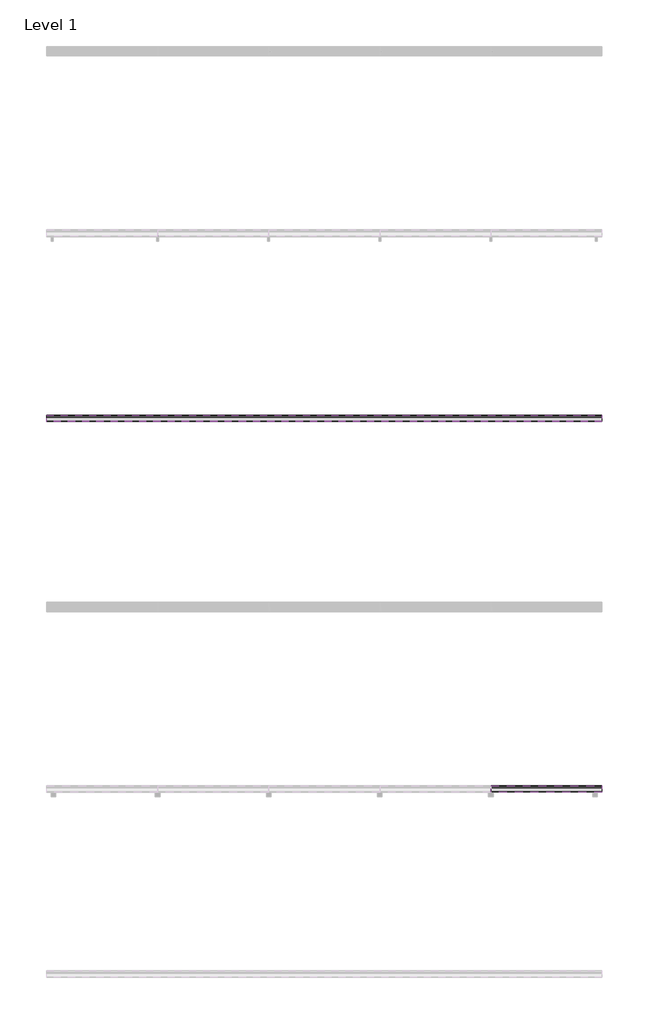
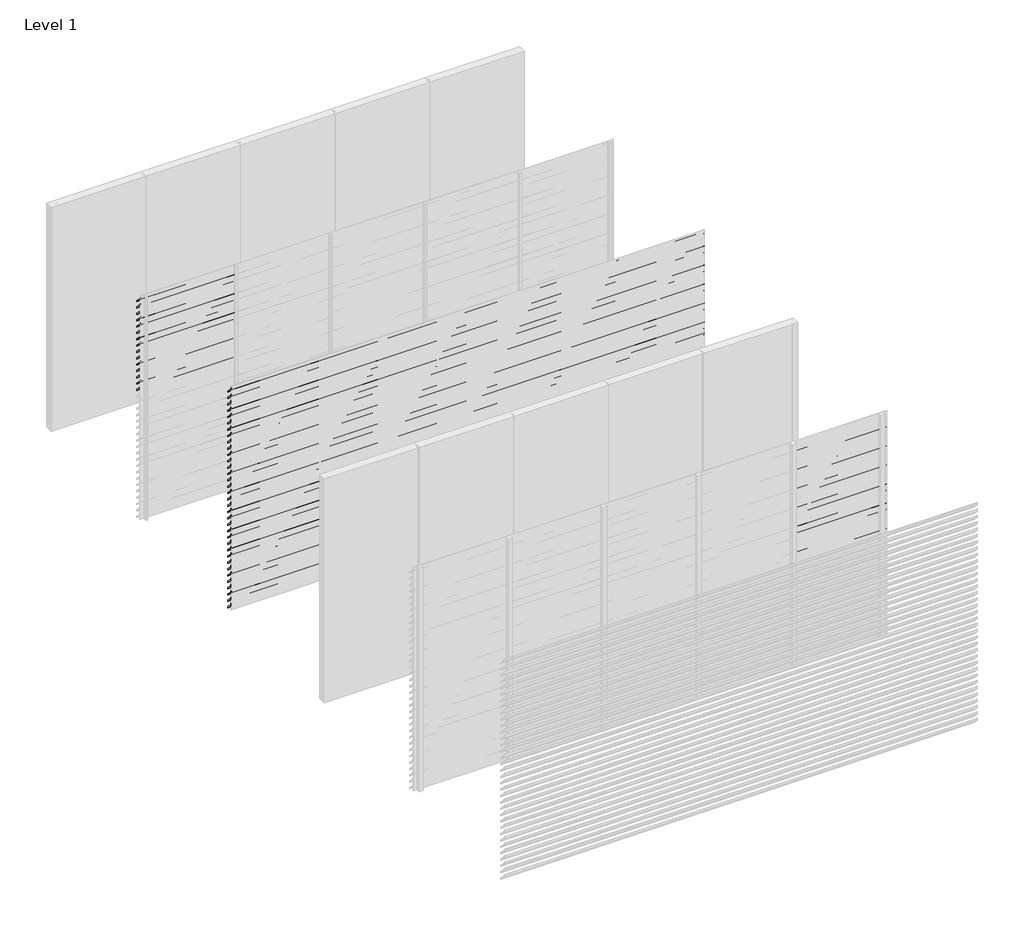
# One storey, part 6 of 10: 90 proxies.
"""IFC4 building model written with IfcOpenShell, lengths in millimetres."""

from ifc_helpers import new_model, si_unit, frame, origin, place, context, project, spatial, polyline, outline, extrude, element, save

model = new_model("IFC4")

# Units and contexts
model_context = context("Model", 3, world=origin())
ifc_project = project(units=[si_unit("LENGTHUNIT", "METRE", prefix="MILLI")], contexts=[model_context])

# Site, building, storey
site = spatial("IfcSite", under=ifc_project)
building = spatial("IfcBuilding", under=site)
storey = spatial("IfcBuildingStorey", under=building, Name="Level 1", Elevation=0.0)

# Proxies
placement = place(None, origin())
element("IfcBuildingElementProxy", 1, Name="Wall Sweeps", at=placement, inside=storey, context=model_context, shape_type="SweptSolid", body=[
    extrude(outline(polyline([(-5995.0, 2975.0), (-5995.0, 2962.0), (-5927.0, 2894.0), (-5927.0, 2876.0), (-5997.0, 2946.0), (-5997.0, 2975.0), (-5995.0, 2975.0)])), frame((0.0, 0.0, 0.0), z_axis=(1.0, 0.0, 0.0), x_axis=(0.0, 1.0, 0.0)), (0.0, 0.0, 1.0), 1200.0),
])
element("IfcBuildingElementProxy", 2, Name="Wall Sweeps", at=placement, inside=storey, context=model_context, shape_type="SweptSolid", body=[
    extrude(outline(polyline([(-5995.0, 2890.0), (-5995.0, 2877.0), (-5927.0, 2809.0), (-5927.0, 2791.0), (-5997.0, 2861.0), (-5997.0, 2890.0), (-5995.0, 2890.0)])), frame((0.0, 0.0, 0.0), z_axis=(1.0, 0.0, 0.0), x_axis=(0.0, 1.0, 0.0)), (0.0, 0.0, 1.0), 1200.0),
])
element("IfcBuildingElementProxy", 3, Name="Wall Sweeps", at=placement, inside=storey, context=model_context, shape_type="SweptSolid", body=[
    extrude(outline(polyline([(-5995.0, 2805.0), (-5995.0, 2792.0), (-5927.0, 2724.0), (-5927.0, 2706.0), (-5997.0, 2776.0), (-5997.0, 2805.0), (-5995.0, 2805.0)])), frame((0.0, 0.0, 0.0), z_axis=(1.0, 0.0, 0.0), x_axis=(0.0, 1.0, 0.0)), (0.0, 0.0, 1.0), 1200.0),
])
element("IfcBuildingElementProxy", 4, Name="Wall Sweeps", at=placement, inside=storey, context=model_context, shape_type="SweptSolid", body=[
    extrude(outline(polyline([(-5995.0, 2720.0), (-5995.0, 2707.0), (-5927.0, 2639.0), (-5927.0, 2621.0), (-5997.0, 2691.0), (-5997.0, 2720.0), (-5995.0, 2720.0)])), frame((0.0, 0.0, 0.0), z_axis=(1.0, 0.0, 0.0), x_axis=(0.0, 1.0, 0.0)), (0.0, 0.0, 1.0), 1200.0),
])
element("IfcBuildingElementProxy", 5, Name="Wall Sweeps", at=placement, inside=storey, context=model_context, shape_type="SweptSolid", body=[
    extrude(outline(polyline([(-5995.0, 2635.0), (-5995.0, 2622.0), (-5927.0, 2554.0), (-5927.0, 2536.0), (-5997.0, 2606.0), (-5997.0, 2635.0), (-5995.0, 2635.0)])), frame((0.0, 0.0, 0.0), z_axis=(1.0, 0.0, 0.0), x_axis=(0.0, 1.0, 0.0)), (0.0, 0.0, 1.0), 1200.0),
])
element("IfcBuildingElementProxy", 6, Name="Wall Sweeps", at=placement, inside=storey, context=model_context, shape_type="SweptSolid", body=[
    extrude(outline(polyline([(-5995.0, 2550.0), (-5995.0, 2537.0), (-5927.0, 2469.0), (-5927.0, 2451.0), (-5997.0, 2521.0), (-5997.0, 2550.0), (-5995.0, 2550.0)])), frame((0.0, 0.0, 0.0), z_axis=(1.0, 0.0, 0.0), x_axis=(0.0, 1.0, 0.0)), (0.0, 0.0, 1.0), 1200.0),
])
element("IfcBuildingElementProxy", 7, Name="Wall Sweeps", at=placement, inside=storey, context=model_context, shape_type="SweptSolid", body=[
    extrude(outline(polyline([(-5995.0, 2465.0), (-5995.0, 2452.0), (-5927.0, 2384.0), (-5927.0, 2366.0), (-5997.0, 2436.0), (-5997.0, 2465.0), (-5995.0, 2465.0)])), frame((0.0, 0.0, 0.0), z_axis=(1.0, 0.0, 0.0), x_axis=(0.0, 1.0, 0.0)), (0.0, 0.0, 1.0), 1200.0),
])
element("IfcBuildingElementProxy", 8, Name="Wall Sweeps", at=placement, inside=storey, context=model_context, shape_type="SweptSolid", body=[
    extrude(outline(polyline([(-5995.0, 2380.0), (-5995.0, 2367.0), (-5927.0, 2299.0), (-5927.0, 2281.0), (-5997.0, 2351.0), (-5997.0, 2380.0), (-5995.0, 2380.0)])), frame((0.0, 0.0, 0.0), z_axis=(1.0, 0.0, 0.0), x_axis=(0.0, 1.0, 0.0)), (0.0, 0.0, 1.0), 1200.0),
])
element("IfcBuildingElementProxy", 9, Name="Wall Sweeps", at=placement, inside=storey, context=model_context, shape_type="SweptSolid", body=[
    extrude(outline(polyline([(-5995.0, 2295.0), (-5995.0, 2282.0), (-5927.0, 2214.0), (-5927.0, 2196.0), (-5997.0, 2266.0), (-5997.0, 2295.0), (-5995.0, 2295.0)])), frame((0.0, 0.0, 0.0), z_axis=(1.0, 0.0, 0.0), x_axis=(0.0, 1.0, 0.0)), (0.0, 0.0, 1.0), 1200.0),
])
element("IfcBuildingElementProxy", 10, Name="Wall Sweeps", at=placement, inside=storey, context=model_context, shape_type="SweptSolid", body=[
    extrude(outline(polyline([(-5995.0, 2210.0), (-5995.0, 2197.0), (-5927.0, 2129.0), (-5927.0, 2111.0), (-5997.0, 2181.0), (-5997.0, 2210.0), (-5995.0, 2210.0)])), frame((0.0, 0.0, 0.0), z_axis=(1.0, 0.0, 0.0), x_axis=(0.0, 1.0, 0.0)), (0.0, 0.0, 1.0), 1200.0),
])
element("IfcBuildingElementProxy", 11, Name="Wall Sweeps", at=placement, inside=storey, context=model_context, shape_type="SweptSolid", body=[
    extrude(outline(polyline([(-5995.0, 2125.0), (-5995.0, 2112.0), (-5927.0, 2044.0), (-5927.0, 2026.0), (-5997.0, 2096.0), (-5997.0, 2125.0), (-5995.0, 2125.0)])), frame((0.0, 0.0, 0.0), z_axis=(1.0, 0.0, 0.0), x_axis=(0.0, 1.0, 0.0)), (0.0, 0.0, 1.0), 1200.0),
])
element("IfcBuildingElementProxy", 12, Name="Wall Sweeps", at=placement, inside=storey, context=model_context, shape_type="SweptSolid", body=[
    extrude(outline(polyline([(-5995.0, 2040.0), (-5995.0, 2027.0), (-5927.0, 1959.0), (-5927.0, 1941.0), (-5997.0, 2011.0), (-5997.0, 2040.0), (-5995.0, 2040.0)])), frame((0.0, 0.0, 0.0), z_axis=(1.0, 0.0, 0.0), x_axis=(0.0, 1.0, 0.0)), (0.0, 0.0, 1.0), 1200.0),
])
element("IfcBuildingElementProxy", 13, Name="Wall Sweeps", at=placement, inside=storey, context=model_context, shape_type="SweptSolid", body=[
    extrude(outline(polyline([(-5995.0, 1955.0), (-5995.0, 1942.0), (-5927.0, 1874.0), (-5927.0, 1856.0), (-5997.0, 1926.0), (-5997.0, 1955.0), (-5995.0, 1955.0)])), frame((0.0, 0.0, 0.0), z_axis=(1.0, 0.0, 0.0), x_axis=(0.0, 1.0, 0.0)), (0.0, 0.0, 1.0), 1200.0),
])
element("IfcBuildingElementProxy", 14, Name="Wall Sweeps", at=placement, inside=storey, context=model_context, shape_type="SweptSolid", body=[
    extrude(outline(polyline([(-5995.0, 1870.0), (-5995.0, 1857.0), (-5927.0, 1789.0), (-5927.0, 1771.0), (-5997.0, 1841.0), (-5997.0, 1870.0), (-5995.0, 1870.0)])), frame((0.0, 0.0, 0.0), z_axis=(1.0, 0.0, 0.0), x_axis=(0.0, 1.0, 0.0)), (0.0, 0.0, 1.0), 1200.0),
])
element("IfcBuildingElementProxy", 15, Name="Wall Sweeps", at=placement, inside=storey, context=model_context, shape_type="SweptSolid", body=[
    extrude(outline(polyline([(-5995.0, 1785.0), (-5995.0, 1772.0), (-5927.0, 1704.0), (-5927.0, 1686.0), (-5997.0, 1756.0), (-5997.0, 1785.0), (-5995.0, 1785.0)])), frame((0.0, 0.0, 0.0), z_axis=(1.0, 0.0, 0.0), x_axis=(0.0, 1.0, 0.0)), (0.0, 0.0, 1.0), 1200.0),
])
element("IfcBuildingElementProxy", 16, Name="Wall Sweeps", at=placement, inside=storey, context=model_context, shape_type="SweptSolid", body=[
    extrude(outline(polyline([(-7995.0, 2975.0), (-7995.0, 2962.0), (-7927.0, 2894.0), (-7927.0, 2876.0), (-7997.0, 2946.0), (-7997.0, 2975.0), (-7995.0, 2975.0)])), frame((0.0, 0.0, 0.0), z_axis=(1.0, 0.0, 0.0), x_axis=(0.0, 1.0, 0.0)), (0.0, 0.0, 1.0), 6000.0),
])
element("IfcBuildingElementProxy", 17, Name="Wall Sweeps", at=placement, inside=storey, context=model_context, shape_type="SweptSolid", body=[
    extrude(outline(polyline([(-7995.0, 2890.0), (-7995.0, 2877.0), (-7927.0, 2809.0), (-7927.0, 2791.0), (-7997.0, 2861.0), (-7997.0, 2890.0), (-7995.0, 2890.0)])), frame((0.0, 0.0, 0.0), z_axis=(1.0, 0.0, 0.0), x_axis=(0.0, 1.0, 0.0)), (0.0, 0.0, 1.0), 6000.0),
])
element("IfcBuildingElementProxy", 18, Name="Wall Sweeps", at=placement, inside=storey, context=model_context, shape_type="SweptSolid", body=[
    extrude(outline(polyline([(-7995.0, 2805.0), (-7995.0, 2792.0), (-7927.0, 2724.0), (-7927.0, 2706.0), (-7997.0, 2776.0), (-7997.0, 2805.0), (-7995.0, 2805.0)])), frame((0.0, 0.0, 0.0), z_axis=(1.0, 0.0, 0.0), x_axis=(0.0, 1.0, 0.0)), (0.0, 0.0, 1.0), 6000.0),
])
element("IfcBuildingElementProxy", 19, Name="Wall Sweeps", at=placement, inside=storey, context=model_context, shape_type="SweptSolid", body=[
    extrude(outline(polyline([(-7995.0, 2720.0), (-7995.0, 2707.0), (-7927.0, 2639.0), (-7927.0, 2621.0), (-7997.0, 2691.0), (-7997.0, 2720.0), (-7995.0, 2720.0)])), frame((0.0, 0.0, 0.0), z_axis=(1.0, 0.0, 0.0), x_axis=(0.0, 1.0, 0.0)), (0.0, 0.0, 1.0), 6000.0),
])
element("IfcBuildingElementProxy", 20, Name="Wall Sweeps", at=placement, inside=storey, context=model_context, shape_type="SweptSolid", body=[
    extrude(outline(polyline([(-7995.0, 2635.0), (-7995.0, 2622.0), (-7927.0, 2554.0), (-7927.0, 2536.0), (-7997.0, 2606.0), (-7997.0, 2635.0), (-7995.0, 2635.0)])), frame((0.0, 0.0, 0.0), z_axis=(1.0, 0.0, 0.0), x_axis=(0.0, 1.0, 0.0)), (0.0, 0.0, 1.0), 6000.0),
])
element("IfcBuildingElementProxy", 21, Name="Wall Sweeps", at=placement, inside=storey, context=model_context, shape_type="SweptSolid", body=[
    extrude(outline(polyline([(-7995.0, 2550.0), (-7995.0, 2537.0), (-7927.0, 2469.0), (-7927.0, 2451.0), (-7997.0, 2521.0), (-7997.0, 2550.0), (-7995.0, 2550.0)])), frame((0.0, 0.0, 0.0), z_axis=(1.0, 0.0, 0.0), x_axis=(0.0, 1.0, 0.0)), (0.0, 0.0, 1.0), 6000.0),
])
element("IfcBuildingElementProxy", 22, Name="Wall Sweeps", at=placement, inside=storey, context=model_context, shape_type="SweptSolid", body=[
    extrude(outline(polyline([(-7995.0, 2465.0), (-7995.0, 2452.0), (-7927.0, 2384.0), (-7927.0, 2366.0), (-7997.0, 2436.0), (-7997.0, 2465.0), (-7995.0, 2465.0)])), frame((0.0, 0.0, 0.0), z_axis=(1.0, 0.0, 0.0), x_axis=(0.0, 1.0, 0.0)), (0.0, 0.0, 1.0), 6000.0),
])
element("IfcBuildingElementProxy", 23, Name="Wall Sweeps", at=placement, inside=storey, context=model_context, shape_type="SweptSolid", body=[
    extrude(outline(polyline([(-7995.0, 2380.0), (-7995.0, 2367.0), (-7927.0, 2299.0), (-7927.0, 2281.0), (-7997.0, 2351.0), (-7997.0, 2380.0), (-7995.0, 2380.0)])), frame((0.0, 0.0, 0.0), z_axis=(1.0, 0.0, 0.0), x_axis=(0.0, 1.0, 0.0)), (0.0, 0.0, 1.0), 6000.0),
])
element("IfcBuildingElementProxy", 24, Name="Wall Sweeps", at=placement, inside=storey, context=model_context, shape_type="SweptSolid", body=[
    extrude(outline(polyline([(-7995.0, 2295.0), (-7995.0, 2282.0), (-7927.0, 2214.0), (-7927.0, 2196.0), (-7997.0, 2266.0), (-7997.0, 2295.0), (-7995.0, 2295.0)])), frame((0.0, 0.0, 0.0), z_axis=(1.0, 0.0, 0.0), x_axis=(0.0, 1.0, 0.0)), (0.0, 0.0, 1.0), 6000.0),
])
element("IfcBuildingElementProxy", 25, Name="Wall Sweeps", at=placement, inside=storey, context=model_context, shape_type="SweptSolid", body=[
    extrude(outline(polyline([(-7995.0, 2210.0), (-7995.0, 2197.0), (-7927.0, 2129.0), (-7927.0, 2111.0), (-7997.0, 2181.0), (-7997.0, 2210.0), (-7995.0, 2210.0)])), frame((0.0, 0.0, 0.0), z_axis=(1.0, 0.0, 0.0), x_axis=(0.0, 1.0, 0.0)), (0.0, 0.0, 1.0), 6000.0),
])
element("IfcBuildingElementProxy", 26, Name="Wall Sweeps", at=placement, inside=storey, context=model_context, shape_type="SweptSolid", body=[
    extrude(outline(polyline([(-7995.0, 2125.0), (-7995.0, 2112.0), (-7927.0, 2044.0), (-7927.0, 2026.0), (-7997.0, 2096.0), (-7997.0, 2125.0), (-7995.0, 2125.0)])), frame((0.0, 0.0, 0.0), z_axis=(1.0, 0.0, 0.0), x_axis=(0.0, 1.0, 0.0)), (0.0, 0.0, 1.0), 6000.0),
])
element("IfcBuildingElementProxy", 27, Name="Wall Sweeps", at=placement, inside=storey, context=model_context, shape_type="SweptSolid", body=[
    extrude(outline(polyline([(-7995.0, 2040.0), (-7995.0, 2027.0), (-7927.0, 1959.0), (-7927.0, 1941.0), (-7997.0, 2011.0), (-7997.0, 2040.0), (-7995.0, 2040.0)])), frame((0.0, 0.0, 0.0), z_axis=(1.0, 0.0, 0.0), x_axis=(0.0, 1.0, 0.0)), (0.0, 0.0, 1.0), 6000.0),
])
element("IfcBuildingElementProxy", 28, Name="Wall Sweeps", at=placement, inside=storey, context=model_context, shape_type="SweptSolid", body=[
    extrude(outline(polyline([(-7995.0, 1955.0), (-7995.0, 1942.0), (-7927.0, 1874.0), (-7927.0, 1856.0), (-7997.0, 1926.0), (-7997.0, 1955.0), (-7995.0, 1955.0)])), frame((0.0, 0.0, 0.0), z_axis=(1.0, 0.0, 0.0), x_axis=(0.0, 1.0, 0.0)), (0.0, 0.0, 1.0), 6000.0),
])
element("IfcBuildingElementProxy", 29, Name="Wall Sweeps", at=placement, inside=storey, context=model_context, shape_type="SweptSolid", body=[
    extrude(outline(polyline([(-7995.0, 1870.0), (-7995.0, 1857.0), (-7927.0, 1789.0), (-7927.0, 1771.0), (-7997.0, 1841.0), (-7997.0, 1870.0), (-7995.0, 1870.0)])), frame((0.0, 0.0, 0.0), z_axis=(1.0, 0.0, 0.0), x_axis=(0.0, 1.0, 0.0)), (0.0, 0.0, 1.0), 6000.0),
])
element("IfcBuildingElementProxy", 30, Name="Wall Sweeps", at=placement, inside=storey, context=model_context, shape_type="SweptSolid", body=[
    extrude(outline(polyline([(-7995.0, 1785.0), (-7995.0, 1772.0), (-7927.0, 1704.0), (-7927.0, 1686.0), (-7997.0, 1756.0), (-7997.0, 1785.0), (-7995.0, 1785.0)])), frame((0.0, 0.0, 0.0), z_axis=(1.0, 0.0, 0.0), x_axis=(0.0, 1.0, 0.0)), (0.0, 0.0, 1.0), 6000.0),
])
element("IfcBuildingElementProxy", 31, Name="Wall Sweeps", at=placement, inside=storey, context=model_context, shape_type="SweptSolid", body=[
    extrude(outline(polyline([(-7995.0, 1700.0), (-7995.0, 1687.0), (-7927.0, 1619.0), (-7927.0, 1601.0), (-7997.0, 1671.0), (-7997.0, 1700.0), (-7995.0, 1700.0)])), frame((0.0, 0.0, 0.0), z_axis=(1.0, 0.0, 0.0), x_axis=(0.0, 1.0, 0.0)), (0.0, 0.0, 1.0), 6000.0),
])
element("IfcBuildingElementProxy", 32, Name="Wall Sweeps", at=placement, inside=storey, context=model_context, shape_type="SweptSolid", body=[
    extrude(outline(polyline([(-7995.0, 1615.0), (-7995.0, 1602.0), (-7927.0, 1534.0), (-7927.0, 1516.0), (-7997.0, 1586.0), (-7997.0, 1615.0), (-7995.0, 1615.0)])), frame((0.0, 0.0, 0.0), z_axis=(1.0, 0.0, 0.0), x_axis=(0.0, 1.0, 0.0)), (0.0, 0.0, 1.0), 6000.0),
])
element("IfcBuildingElementProxy", 33, Name="Wall Sweeps", at=placement, inside=storey, context=model_context, shape_type="SweptSolid", body=[
    extrude(outline(polyline([(-7995.0, 1530.0), (-7995.0, 1517.0), (-7927.0, 1449.0), (-7927.0, 1431.0), (-7997.0, 1501.0), (-7997.0, 1530.0), (-7995.0, 1530.0)])), frame((0.0, 0.0, 0.0), z_axis=(1.0, 0.0, 0.0), x_axis=(0.0, 1.0, 0.0)), (0.0, 0.0, 1.0), 6000.0),
])
element("IfcBuildingElementProxy", 34, Name="Wall Sweeps", at=placement, inside=storey, context=model_context, shape_type="SweptSolid", body=[
    extrude(outline(polyline([(-7995.0, 1445.0), (-7995.0, 1432.0), (-7927.0, 1364.0), (-7927.0, 1346.0), (-7997.0, 1416.0), (-7997.0, 1445.0), (-7995.0, 1445.0)])), frame((0.0, 0.0, 0.0), z_axis=(1.0, 0.0, 0.0), x_axis=(0.0, 1.0, 0.0)), (0.0, 0.0, 1.0), 6000.0),
])
element("IfcBuildingElementProxy", 35, Name="Wall Sweeps", at=placement, inside=storey, context=model_context, shape_type="SweptSolid", body=[
    extrude(outline(polyline([(-7995.0, 1360.0), (-7995.0, 1347.0), (-7927.0, 1279.0), (-7927.0, 1261.0), (-7997.0, 1331.0), (-7997.0, 1360.0), (-7995.0, 1360.0)])), frame((0.0, 0.0, 0.0), z_axis=(1.0, 0.0, 0.0), x_axis=(0.0, 1.0, 0.0)), (0.0, 0.0, 1.0), 6000.0),
])
element("IfcBuildingElementProxy", 36, Name="Wall Sweeps", at=placement, inside=storey, context=model_context, shape_type="SweptSolid", body=[
    extrude(outline(polyline([(-7995.0, 1275.0), (-7995.0, 1262.0), (-7927.0, 1194.0), (-7927.0, 1176.0), (-7997.0, 1246.0), (-7997.0, 1275.0), (-7995.0, 1275.0)])), frame((0.0, 0.0, 0.0), z_axis=(1.0, 0.0, 0.0), x_axis=(0.0, 1.0, 0.0)), (0.0, 0.0, 1.0), 6000.0),
])
element("IfcBuildingElementProxy", 37, Name="Wall Sweeps", at=placement, inside=storey, context=model_context, shape_type="SweptSolid", body=[
    extrude(outline(polyline([(-7995.0, 1190.0), (-7995.0, 1177.0), (-7927.0, 1109.0), (-7927.0, 1091.0), (-7997.0, 1161.0), (-7997.0, 1190.0), (-7995.0, 1190.0)])), frame((0.0, 0.0, 0.0), z_axis=(1.0, 0.0, 0.0), x_axis=(0.0, 1.0, 0.0)), (0.0, 0.0, 1.0), 6000.0),
])
element("IfcBuildingElementProxy", 38, Name="Wall Sweeps", at=placement, inside=storey, context=model_context, shape_type="SweptSolid", body=[
    extrude(outline(polyline([(-7995.0, 1105.0), (-7995.0, 1092.0), (-7927.0, 1024.0), (-7927.0, 1006.0), (-7997.0, 1076.0), (-7997.0, 1105.0), (-7995.0, 1105.0)])), frame((0.0, 0.0, 0.0), z_axis=(1.0, 0.0, 0.0), x_axis=(0.0, 1.0, 0.0)), (0.0, 0.0, 1.0), 6000.0),
])
element("IfcBuildingElementProxy", 39, Name="Wall Sweeps", at=placement, inside=storey, context=model_context, shape_type="SweptSolid", body=[
    extrude(outline(polyline([(-7995.0, 1020.0), (-7995.0, 1007.0), (-7927.0, 939.0), (-7927.0, 921.0), (-7997.0, 991.0), (-7997.0, 1020.0), (-7995.0, 1020.0)])), frame((0.0, 0.0, 0.0), z_axis=(1.0, 0.0, 0.0), x_axis=(0.0, 1.0, 0.0)), (0.0, 0.0, 1.0), 6000.0),
])
element("IfcBuildingElementProxy", 40, Name="Wall Sweeps", at=placement, inside=storey, context=model_context, shape_type="SweptSolid", body=[
    extrude(outline(polyline([(-7995.0, 935.0), (-7995.0, 922.0), (-7927.0, 854.0), (-7927.0, 836.0), (-7997.0, 906.0), (-7997.0, 935.0), (-7995.0, 935.0)])), frame((0.0, 0.0, 0.0), z_axis=(1.0, 0.0, 0.0), x_axis=(0.0, 1.0, 0.0)), (0.0, 0.0, 1.0), 6000.0),
])
element("IfcBuildingElementProxy", 41, Name="Wall Sweeps", at=placement, inside=storey, context=model_context, shape_type="SweptSolid", body=[
    extrude(outline(polyline([(-7995.0, 850.0), (-7995.0, 837.0), (-7927.0, 769.0), (-7927.0, 751.0), (-7997.0, 821.0), (-7997.0, 850.0), (-7995.0, 850.0)])), frame((0.0, 0.0, 0.0), z_axis=(1.0, 0.0, 0.0), x_axis=(0.0, 1.0, 0.0)), (0.0, 0.0, 1.0), 6000.0),
])
element("IfcBuildingElementProxy", 42, Name="Wall Sweeps", at=placement, inside=storey, context=model_context, shape_type="SweptSolid", body=[
    extrude(outline(polyline([(-7995.0, 765.0), (-7995.0, 752.0), (-7927.0, 684.0), (-7927.0, 666.0), (-7997.0, 736.0), (-7997.0, 765.0), (-7995.0, 765.0)])), frame((0.0, 0.0, 0.0), z_axis=(1.0, 0.0, 0.0), x_axis=(0.0, 1.0, 0.0)), (0.0, 0.0, 1.0), 6000.0),
])
element("IfcBuildingElementProxy", 43, Name="Wall Sweeps", at=placement, inside=storey, context=model_context, shape_type="SweptSolid", body=[
    extrude(outline(polyline([(-7995.0, 680.0), (-7995.0, 667.0), (-7927.0, 599.0), (-7927.0, 581.0), (-7997.0, 651.0), (-7997.0, 680.0), (-7995.0, 680.0)])), frame((0.0, 0.0, 0.0), z_axis=(1.0, 0.0, 0.0), x_axis=(0.0, 1.0, 0.0)), (0.0, 0.0, 1.0), 6000.0),
])
element("IfcBuildingElementProxy", 44, Name="Wall Sweeps", at=placement, inside=storey, context=model_context, shape_type="SweptSolid", body=[
    extrude(outline(polyline([(-7995.0, 595.0), (-7995.0, 582.0), (-7927.0, 514.0), (-7927.0, 496.0), (-7997.0, 566.0), (-7997.0, 595.0), (-7995.0, 595.0)])), frame((0.0, 0.0, 0.0), z_axis=(1.0, 0.0, 0.0), x_axis=(0.0, 1.0, 0.0)), (0.0, 0.0, 1.0), 6000.0),
])
element("IfcBuildingElementProxy", 45, Name="Wall Sweeps", at=placement, inside=storey, context=model_context, shape_type="SweptSolid", body=[
    extrude(outline(polyline([(-7995.0, 510.0), (-7995.0, 497.0), (-7927.0, 429.0), (-7927.0, 411.0), (-7997.0, 481.0), (-7997.0, 510.0), (-7995.0, 510.0)])), frame((0.0, 0.0, 0.0), z_axis=(1.0, 0.0, 0.0), x_axis=(0.0, 1.0, 0.0)), (0.0, 0.0, 1.0), 6000.0),
])
element("IfcBuildingElementProxy", 46, Name="Wall Sweeps", at=placement, inside=storey, context=model_context, shape_type="SweptSolid", body=[
    extrude(outline(polyline([(-7995.0, 425.0), (-7995.0, 412.0), (-7927.0, 344.0), (-7927.0, 326.0), (-7997.0, 396.0), (-7997.0, 425.0), (-7995.0, 425.0)])), frame((0.0, 0.0, 0.0), z_axis=(1.0, 0.0, 0.0), x_axis=(0.0, 1.0, 0.0)), (0.0, 0.0, 1.0), 6000.0),
])
element("IfcBuildingElementProxy", 47, Name="Wall Sweeps", at=placement, inside=storey, context=model_context, shape_type="SweptSolid", body=[
    extrude(outline(polyline([(-7995.0, 340.0), (-7995.0, 327.0), (-7927.0, 259.0), (-7927.0, 241.0), (-7997.0, 311.0), (-7997.0, 340.0), (-7995.0, 340.0)])), frame((0.0, 0.0, 0.0), z_axis=(1.0, 0.0, 0.0), x_axis=(0.0, 1.0, 0.0)), (0.0, 0.0, 1.0), 6000.0),
])
element("IfcBuildingElementProxy", 48, Name="Wall Sweeps", at=placement, inside=storey, context=model_context, shape_type="SweptSolid", body=[
    extrude(outline(polyline([(-7995.0, 255.0), (-7995.0, 242.0), (-7927.0, 174.0), (-7927.0, 156.0), (-7997.0, 226.0), (-7997.0, 255.0), (-7995.0, 255.0)])), frame((0.0, 0.0, 0.0), z_axis=(1.0, 0.0, 0.0), x_axis=(0.0, 1.0, 0.0)), (0.0, 0.0, 1.0), 6000.0),
])
element("IfcBuildingElementProxy", 49, Name="Wall Sweeps", at=placement, inside=storey, context=model_context, shape_type="SweptSolid", body=[
    extrude(outline(polyline([(-7995.0, 170.0), (-7995.0, 157.0), (-7927.0, 89.0), (-7927.0, 71.0), (-7997.0, 141.0), (-7997.0, 170.0), (-7995.0, 170.0)])), frame((0.0, 0.0, 0.0), z_axis=(1.0, 0.0, 0.0), x_axis=(0.0, 1.0, 0.0)), (0.0, 0.0, 1.0), 6000.0),
])
element("IfcBuildingElementProxy", 50, Name="Wall Sweeps", at=placement, inside=storey, context=model_context, shape_type="SweptSolid", body=[
    extrude(outline(polyline([(-7995.0, 85.0), (-7995.0, 72.0), (-7927.0, 4.0), (-7927.0, -14.0), (-7997.0, 56.0), (-7997.0, 85.0), (-7995.0, 85.0)])), frame((0.0, 0.0, 0.0), z_axis=(1.0, 0.0, 0.0), x_axis=(0.0, 1.0, 0.0)), (0.0, 0.0, 1.0), 6000.0),
])
element("IfcBuildingElementProxy", 51, Name="Wall Sweeps", at=placement, inside=storey, context=model_context, shape_type="SweptSolid", body=[
    extrude(outline(polyline([(-11995.0, 425.0), (-11995.0, 412.0), (-11927.0, 344.0), (-11927.0, 326.0), (-11997.0, 396.0), (-11997.0, 425.0), (-11995.0, 425.0)])), frame((3600.0, 0.0, 0.0), z_axis=(1.0, 0.0, 0.0), x_axis=(0.0, 1.0, 0.0)), (0.0, 0.0, 1.0), 1200.0),
])
element("IfcBuildingElementProxy", 52, Name="Wall Sweeps", at=placement, inside=storey, context=model_context, shape_type="SweptSolid", body=[
    extrude(outline(polyline([(-11995.0, 340.0), (-11995.0, 327.0), (-11927.0, 259.0), (-11927.0, 241.0), (-11997.0, 311.0), (-11997.0, 340.0), (-11995.0, 340.0)])), frame((3600.0, 0.0, 0.0), z_axis=(1.0, 0.0, 0.0), x_axis=(0.0, 1.0, 0.0)), (0.0, 0.0, 1.0), 1200.0),
])
element("IfcBuildingElementProxy", 53, Name="Wall Sweeps", at=placement, inside=storey, context=model_context, shape_type="SweptSolid", body=[
    extrude(outline(polyline([(-11995.0, 255.0), (-11995.0, 242.0), (-11927.0, 174.0), (-11927.0, 156.0), (-11997.0, 226.0), (-11997.0, 255.0), (-11995.0, 255.0)])), frame((3600.0, 0.0, 0.0), z_axis=(1.0, 0.0, 0.0), x_axis=(0.0, 1.0, 0.0)), (0.0, 0.0, 1.0), 1200.0),
])
element("IfcBuildingElementProxy", 54, Name="Wall Sweeps", at=placement, inside=storey, context=model_context, shape_type="SweptSolid", body=[
    extrude(outline(polyline([(-11995.0, 170.0), (-11995.0, 157.0), (-11927.0, 89.0), (-11927.0, 71.0), (-11997.0, 141.0), (-11997.0, 170.0), (-11995.0, 170.0)])), frame((3600.0, 0.0, 0.0), z_axis=(1.0, 0.0, 0.0), x_axis=(0.0, 1.0, 0.0)), (0.0, 0.0, 1.0), 1200.0),
])
element("IfcBuildingElementProxy", 55, Name="Wall Sweeps", at=placement, inside=storey, context=model_context, shape_type="SweptSolid", body=[
    extrude(outline(polyline([(-11995.0, 85.0), (-11995.0, 72.0), (-11927.0, 4.0), (-11927.0, -14.0), (-11997.0, 56.0), (-11997.0, 85.0), (-11995.0, 85.0)])), frame((3600.0, 0.0, 0.0), z_axis=(1.0, 0.0, 0.0), x_axis=(0.0, 1.0, 0.0)), (0.0, 0.0, 1.0), 1200.0),
])
element("IfcBuildingElementProxy", 56, Name="Wall Sweeps", at=placement, inside=storey, context=model_context, shape_type="SweptSolid", body=[
    extrude(outline(polyline([(-11995.0, 2975.0), (-11995.0, 2962.0), (-11927.0, 2894.0), (-11927.0, 2876.0), (-11997.0, 2946.0), (-11997.0, 2975.0), (-11995.0, 2975.0)])), frame((4800.0, 0.0, 0.0), z_axis=(1.0, 0.0, 0.0), x_axis=(0.0, 1.0, 0.0)), (0.0, 0.0, 1.0), 1200.0),
])
element("IfcBuildingElementProxy", 57, Name="Wall Sweeps", at=placement, inside=storey, context=model_context, shape_type="SweptSolid", body=[
    extrude(outline(polyline([(-11995.0, 2890.0), (-11995.0, 2877.0), (-11927.0, 2809.0), (-11927.0, 2791.0), (-11997.0, 2861.0), (-11997.0, 2890.0), (-11995.0, 2890.0)])), frame((4800.0, 0.0, 0.0), z_axis=(1.0, 0.0, 0.0), x_axis=(0.0, 1.0, 0.0)), (0.0, 0.0, 1.0), 1200.0),
])
element("IfcBuildingElementProxy", 58, Name="Wall Sweeps", at=placement, inside=storey, context=model_context, shape_type="SweptSolid", body=[
    extrude(outline(polyline([(-11995.0, 2805.0), (-11995.0, 2792.0), (-11927.0, 2724.0), (-11927.0, 2706.0), (-11997.0, 2776.0), (-11997.0, 2805.0), (-11995.0, 2805.0)])), frame((4800.0, 0.0, 0.0), z_axis=(1.0, 0.0, 0.0), x_axis=(0.0, 1.0, 0.0)), (0.0, 0.0, 1.0), 1200.0),
])
element("IfcBuildingElementProxy", 59, Name="Wall Sweeps", at=placement, inside=storey, context=model_context, shape_type="SweptSolid", body=[
    extrude(outline(polyline([(-11995.0, 2720.0), (-11995.0, 2707.0), (-11927.0, 2639.0), (-11927.0, 2621.0), (-11997.0, 2691.0), (-11997.0, 2720.0), (-11995.0, 2720.0)])), frame((4800.0, 0.0, 0.0), z_axis=(1.0, 0.0, 0.0), x_axis=(0.0, 1.0, 0.0)), (0.0, 0.0, 1.0), 1200.0),
])
element("IfcBuildingElementProxy", 60, Name="Wall Sweeps", at=placement, inside=storey, context=model_context, shape_type="SweptSolid", body=[
    extrude(outline(polyline([(-11995.0, 2635.0), (-11995.0, 2622.0), (-11927.0, 2554.0), (-11927.0, 2536.0), (-11997.0, 2606.0), (-11997.0, 2635.0), (-11995.0, 2635.0)])), frame((4800.0, 0.0, 0.0), z_axis=(1.0, 0.0, 0.0), x_axis=(0.0, 1.0, 0.0)), (0.0, 0.0, 1.0), 1200.0),
])
element("IfcBuildingElementProxy", 61, Name="Wall Sweeps", at=placement, inside=storey, context=model_context, shape_type="SweptSolid", body=[
    extrude(outline(polyline([(-11995.0, 2550.0), (-11995.0, 2537.0), (-11927.0, 2469.0), (-11927.0, 2451.0), (-11997.0, 2521.0), (-11997.0, 2550.0), (-11995.0, 2550.0)])), frame((4800.0, 0.0, 0.0), z_axis=(1.0, 0.0, 0.0), x_axis=(0.0, 1.0, 0.0)), (0.0, 0.0, 1.0), 1200.0),
])
element("IfcBuildingElementProxy", 62, Name="Wall Sweeps", at=placement, inside=storey, context=model_context, shape_type="SweptSolid", body=[
    extrude(outline(polyline([(-11995.0, 2465.0), (-11995.0, 2452.0), (-11927.0, 2384.0), (-11927.0, 2366.0), (-11997.0, 2436.0), (-11997.0, 2465.0), (-11995.0, 2465.0)])), frame((4800.0, 0.0, 0.0), z_axis=(1.0, 0.0, 0.0), x_axis=(0.0, 1.0, 0.0)), (0.0, 0.0, 1.0), 1200.0),
])
element("IfcBuildingElementProxy", 63, Name="Wall Sweeps", at=placement, inside=storey, context=model_context, shape_type="SweptSolid", body=[
    extrude(outline(polyline([(-11995.0, 2380.0), (-11995.0, 2367.0), (-11927.0, 2299.0), (-11927.0, 2281.0), (-11997.0, 2351.0), (-11997.0, 2380.0), (-11995.0, 2380.0)])), frame((4800.0, 0.0, 0.0), z_axis=(1.0, 0.0, 0.0), x_axis=(0.0, 1.0, 0.0)), (0.0, 0.0, 1.0), 1200.0),
])
element("IfcBuildingElementProxy", 64, Name="Wall Sweeps", at=placement, inside=storey, context=model_context, shape_type="SweptSolid", body=[
    extrude(outline(polyline([(-11995.0, 2295.0), (-11995.0, 2282.0), (-11927.0, 2214.0), (-11927.0, 2196.0), (-11997.0, 2266.0), (-11997.0, 2295.0), (-11995.0, 2295.0)])), frame((4800.0, 0.0, 0.0), z_axis=(1.0, 0.0, 0.0), x_axis=(0.0, 1.0, 0.0)), (0.0, 0.0, 1.0), 1200.0),
])
element("IfcBuildingElementProxy", 65, Name="Wall Sweeps", at=placement, inside=storey, context=model_context, shape_type="SweptSolid", body=[
    extrude(outline(polyline([(-11995.0, 2210.0), (-11995.0, 2197.0), (-11927.0, 2129.0), (-11927.0, 2111.0), (-11997.0, 2181.0), (-11997.0, 2210.0), (-11995.0, 2210.0)])), frame((4800.0, 0.0, 0.0), z_axis=(1.0, 0.0, 0.0), x_axis=(0.0, 1.0, 0.0)), (0.0, 0.0, 1.0), 1200.0),
])
element("IfcBuildingElementProxy", 66, Name="Wall Sweeps", at=placement, inside=storey, context=model_context, shape_type="SweptSolid", body=[
    extrude(outline(polyline([(-11995.0, 2125.0), (-11995.0, 2112.0), (-11927.0, 2044.0), (-11927.0, 2026.0), (-11997.0, 2096.0), (-11997.0, 2125.0), (-11995.0, 2125.0)])), frame((4800.0, 0.0, 0.0), z_axis=(1.0, 0.0, 0.0), x_axis=(0.0, 1.0, 0.0)), (0.0, 0.0, 1.0), 1200.0),
])
element("IfcBuildingElementProxy", 67, Name="Wall Sweeps", at=placement, inside=storey, context=model_context, shape_type="SweptSolid", body=[
    extrude(outline(polyline([(-11995.0, 2040.0), (-11995.0, 2027.0), (-11927.0, 1959.0), (-11927.0, 1941.0), (-11997.0, 2011.0), (-11997.0, 2040.0), (-11995.0, 2040.0)])), frame((4800.0, 0.0, 0.0), z_axis=(1.0, 0.0, 0.0), x_axis=(0.0, 1.0, 0.0)), (0.0, 0.0, 1.0), 1200.0),
])
element("IfcBuildingElementProxy", 68, Name="Wall Sweeps", at=placement, inside=storey, context=model_context, shape_type="SweptSolid", body=[
    extrude(outline(polyline([(-11995.0, 1955.0), (-11995.0, 1942.0), (-11927.0, 1874.0), (-11927.0, 1856.0), (-11997.0, 1926.0), (-11997.0, 1955.0), (-11995.0, 1955.0)])), frame((4800.0, 0.0, 0.0), z_axis=(1.0, 0.0, 0.0), x_axis=(0.0, 1.0, 0.0)), (0.0, 0.0, 1.0), 1200.0),
])
element("IfcBuildingElementProxy", 69, Name="Wall Sweeps", at=placement, inside=storey, context=model_context, shape_type="SweptSolid", body=[
    extrude(outline(polyline([(-11995.0, 1870.0), (-11995.0, 1857.0), (-11927.0, 1789.0), (-11927.0, 1771.0), (-11997.0, 1841.0), (-11997.0, 1870.0), (-11995.0, 1870.0)])), frame((4800.0, 0.0, 0.0), z_axis=(1.0, 0.0, 0.0), x_axis=(0.0, 1.0, 0.0)), (0.0, 0.0, 1.0), 1200.0),
])
element("IfcBuildingElementProxy", 70, Name="Wall Sweeps", at=placement, inside=storey, context=model_context, shape_type="SweptSolid", body=[
    extrude(outline(polyline([(-11995.0, 1785.0), (-11995.0, 1772.0), (-11927.0, 1704.0), (-11927.0, 1686.0), (-11997.0, 1756.0), (-11997.0, 1785.0), (-11995.0, 1785.0)])), frame((4800.0, 0.0, 0.0), z_axis=(1.0, 0.0, 0.0), x_axis=(0.0, 1.0, 0.0)), (0.0, 0.0, 1.0), 1200.0),
])
element("IfcBuildingElementProxy", 71, Name="Wall Sweeps", at=placement, inside=storey, context=model_context, shape_type="SweptSolid", body=[
    extrude(outline(polyline([(-11995.0, 1700.0), (-11995.0, 1687.0), (-11927.0, 1619.0), (-11927.0, 1601.0), (-11997.0, 1671.0), (-11997.0, 1700.0), (-11995.0, 1700.0)])), frame((4800.0, 0.0, 0.0), z_axis=(1.0, 0.0, 0.0), x_axis=(0.0, 1.0, 0.0)), (0.0, 0.0, 1.0), 1200.0),
])
element("IfcBuildingElementProxy", 72, Name="Wall Sweeps", at=placement, inside=storey, context=model_context, shape_type="SweptSolid", body=[
    extrude(outline(polyline([(-11995.0, 1615.0), (-11995.0, 1602.0), (-11927.0, 1534.0), (-11927.0, 1516.0), (-11997.0, 1586.0), (-11997.0, 1615.0), (-11995.0, 1615.0)])), frame((4800.0, 0.0, 0.0), z_axis=(1.0, 0.0, 0.0), x_axis=(0.0, 1.0, 0.0)), (0.0, 0.0, 1.0), 1200.0),
])
element("IfcBuildingElementProxy", 73, Name="Wall Sweeps", at=placement, inside=storey, context=model_context, shape_type="SweptSolid", body=[
    extrude(outline(polyline([(-11995.0, 1530.0), (-11995.0, 1517.0), (-11927.0, 1449.0), (-11927.0, 1431.0), (-11997.0, 1501.0), (-11997.0, 1530.0), (-11995.0, 1530.0)])), frame((4800.0, 0.0, 0.0), z_axis=(1.0, 0.0, 0.0), x_axis=(0.0, 1.0, 0.0)), (0.0, 0.0, 1.0), 1200.0),
])
element("IfcBuildingElementProxy", 74, Name="Wall Sweeps", at=placement, inside=storey, context=model_context, shape_type="SweptSolid", body=[
    extrude(outline(polyline([(-11995.0, 1445.0), (-11995.0, 1432.0), (-11927.0, 1364.0), (-11927.0, 1346.0), (-11997.0, 1416.0), (-11997.0, 1445.0), (-11995.0, 1445.0)])), frame((4800.0, 0.0, 0.0), z_axis=(1.0, 0.0, 0.0), x_axis=(0.0, 1.0, 0.0)), (0.0, 0.0, 1.0), 1200.0),
])
element("IfcBuildingElementProxy", 75, Name="Wall Sweeps", at=placement, inside=storey, context=model_context, shape_type="SweptSolid", body=[
    extrude(outline(polyline([(-11995.0, 1360.0), (-11995.0, 1347.0), (-11927.0, 1279.0), (-11927.0, 1261.0), (-11997.0, 1331.0), (-11997.0, 1360.0), (-11995.0, 1360.0)])), frame((4800.0, 0.0, 0.0), z_axis=(1.0, 0.0, 0.0), x_axis=(0.0, 1.0, 0.0)), (0.0, 0.0, 1.0), 1200.0),
])
element("IfcBuildingElementProxy", 76, Name="Wall Sweeps", at=placement, inside=storey, context=model_context, shape_type="SweptSolid", body=[
    extrude(outline(polyline([(-11995.0, 1275.0), (-11995.0, 1262.0), (-11927.0, 1194.0), (-11927.0, 1176.0), (-11997.0, 1246.0), (-11997.0, 1275.0), (-11995.0, 1275.0)])), frame((4800.0, 0.0, 0.0), z_axis=(1.0, 0.0, 0.0), x_axis=(0.0, 1.0, 0.0)), (0.0, 0.0, 1.0), 1200.0),
])
element("IfcBuildingElementProxy", 77, Name="Wall Sweeps", at=placement, inside=storey, context=model_context, shape_type="SweptSolid", body=[
    extrude(outline(polyline([(-11995.0, 1190.0), (-11995.0, 1177.0), (-11927.0, 1109.0), (-11927.0, 1091.0), (-11997.0, 1161.0), (-11997.0, 1190.0), (-11995.0, 1190.0)])), frame((4800.0, 0.0, 0.0), z_axis=(1.0, 0.0, 0.0), x_axis=(0.0, 1.0, 0.0)), (0.0, 0.0, 1.0), 1200.0),
])
element("IfcBuildingElementProxy", 78, Name="Wall Sweeps", at=placement, inside=storey, context=model_context, shape_type="SweptSolid", body=[
    extrude(outline(polyline([(-11995.0, 1105.0), (-11995.0, 1092.0), (-11927.0, 1024.0), (-11927.0, 1006.0), (-11997.0, 1076.0), (-11997.0, 1105.0), (-11995.0, 1105.0)])), frame((4800.0, 0.0, 0.0), z_axis=(1.0, 0.0, 0.0), x_axis=(0.0, 1.0, 0.0)), (0.0, 0.0, 1.0), 1200.0),
])
element("IfcBuildingElementProxy", 79, Name="Wall Sweeps", at=placement, inside=storey, context=model_context, shape_type="SweptSolid", body=[
    extrude(outline(polyline([(-11995.0, 1020.0), (-11995.0, 1007.0), (-11927.0, 939.0), (-11927.0, 921.0), (-11997.0, 991.0), (-11997.0, 1020.0), (-11995.0, 1020.0)])), frame((4800.0, 0.0, 0.0), z_axis=(1.0, 0.0, 0.0), x_axis=(0.0, 1.0, 0.0)), (0.0, 0.0, 1.0), 1200.0),
])
element("IfcBuildingElementProxy", 80, Name="Wall Sweeps", at=placement, inside=storey, context=model_context, shape_type="SweptSolid", body=[
    extrude(outline(polyline([(-11995.0, 935.0), (-11995.0, 922.0), (-11927.0, 854.0), (-11927.0, 836.0), (-11997.0, 906.0), (-11997.0, 935.0), (-11995.0, 935.0)])), frame((4800.0, 0.0, 0.0), z_axis=(1.0, 0.0, 0.0), x_axis=(0.0, 1.0, 0.0)), (0.0, 0.0, 1.0), 1200.0),
])
element("IfcBuildingElementProxy", 81, Name="Wall Sweeps", at=placement, inside=storey, context=model_context, shape_type="SweptSolid", body=[
    extrude(outline(polyline([(-11995.0, 850.0), (-11995.0, 837.0), (-11927.0, 769.0), (-11927.0, 751.0), (-11997.0, 821.0), (-11997.0, 850.0), (-11995.0, 850.0)])), frame((4800.0, 0.0, 0.0), z_axis=(1.0, 0.0, 0.0), x_axis=(0.0, 1.0, 0.0)), (0.0, 0.0, 1.0), 1200.0),
])
element("IfcBuildingElementProxy", 82, Name="Wall Sweeps", at=placement, inside=storey, context=model_context, shape_type="SweptSolid", body=[
    extrude(outline(polyline([(-11995.0, 765.0), (-11995.0, 752.0), (-11927.0, 684.0), (-11927.0, 666.0), (-11997.0, 736.0), (-11997.0, 765.0), (-11995.0, 765.0)])), frame((4800.0, 0.0, 0.0), z_axis=(1.0, 0.0, 0.0), x_axis=(0.0, 1.0, 0.0)), (0.0, 0.0, 1.0), 1200.0),
])
element("IfcBuildingElementProxy", 83, Name="Wall Sweeps", at=placement, inside=storey, context=model_context, shape_type="SweptSolid", body=[
    extrude(outline(polyline([(-11995.0, 680.0), (-11995.0, 667.0), (-11927.0, 599.0), (-11927.0, 581.0), (-11997.0, 651.0), (-11997.0, 680.0), (-11995.0, 680.0)])), frame((4800.0, 0.0, 0.0), z_axis=(1.0, 0.0, 0.0), x_axis=(0.0, 1.0, 0.0)), (0.0, 0.0, 1.0), 1200.0),
])
element("IfcBuildingElementProxy", 84, Name="Wall Sweeps", at=placement, inside=storey, context=model_context, shape_type="SweptSolid", body=[
    extrude(outline(polyline([(-11995.0, 595.0), (-11995.0, 582.0), (-11927.0, 514.0), (-11927.0, 496.0), (-11997.0, 566.0), (-11997.0, 595.0), (-11995.0, 595.0)])), frame((4800.0, 0.0, 0.0), z_axis=(1.0, 0.0, 0.0), x_axis=(0.0, 1.0, 0.0)), (0.0, 0.0, 1.0), 1200.0),
])
element("IfcBuildingElementProxy", 85, Name="Wall Sweeps", at=placement, inside=storey, context=model_context, shape_type="SweptSolid", body=[
    extrude(outline(polyline([(-11995.0, 510.0), (-11995.0, 497.0), (-11927.0, 429.0), (-11927.0, 411.0), (-11997.0, 481.0), (-11997.0, 510.0), (-11995.0, 510.0)])), frame((4800.0, 0.0, 0.0), z_axis=(1.0, 0.0, 0.0), x_axis=(0.0, 1.0, 0.0)), (0.0, 0.0, 1.0), 1200.0),
])
element("IfcBuildingElementProxy", 86, Name="Wall Sweeps", at=placement, inside=storey, context=model_context, shape_type="SweptSolid", body=[
    extrude(outline(polyline([(-11995.0, 425.0), (-11995.0, 412.0), (-11927.0, 344.0), (-11927.0, 326.0), (-11997.0, 396.0), (-11997.0, 425.0), (-11995.0, 425.0)])), frame((4800.0, 0.0, 0.0), z_axis=(1.0, 0.0, 0.0), x_axis=(0.0, 1.0, 0.0)), (0.0, 0.0, 1.0), 1200.0),
])
element("IfcBuildingElementProxy", 87, Name="Wall Sweeps", at=placement, inside=storey, context=model_context, shape_type="SweptSolid", body=[
    extrude(outline(polyline([(-11995.0, 340.0), (-11995.0, 327.0), (-11927.0, 259.0), (-11927.0, 241.0), (-11997.0, 311.0), (-11997.0, 340.0), (-11995.0, 340.0)])), frame((4800.0, 0.0, 0.0), z_axis=(1.0, 0.0, 0.0), x_axis=(0.0, 1.0, 0.0)), (0.0, 0.0, 1.0), 1200.0),
])
element("IfcBuildingElementProxy", 88, Name="Wall Sweeps", at=placement, inside=storey, context=model_context, shape_type="SweptSolid", body=[
    extrude(outline(polyline([(-11995.0, 255.0), (-11995.0, 242.0), (-11927.0, 174.0), (-11927.0, 156.0), (-11997.0, 226.0), (-11997.0, 255.0), (-11995.0, 255.0)])), frame((4800.0, 0.0, 0.0), z_axis=(1.0, 0.0, 0.0), x_axis=(0.0, 1.0, 0.0)), (0.0, 0.0, 1.0), 1200.0),
])
element("IfcBuildingElementProxy", 89, Name="Wall Sweeps", at=placement, inside=storey, context=model_context, shape_type="SweptSolid", body=[
    extrude(outline(polyline([(-11995.0, 170.0), (-11995.0, 157.0), (-11927.0, 89.0), (-11927.0, 71.0), (-11997.0, 141.0), (-11997.0, 170.0), (-11995.0, 170.0)])), frame((4800.0, 0.0, 0.0), z_axis=(1.0, 0.0, 0.0), x_axis=(0.0, 1.0, 0.0)), (0.0, 0.0, 1.0), 1200.0),
])
element("IfcBuildingElementProxy", 90, Name="Wall Sweeps", at=placement, inside=storey, context=model_context, shape_type="SweptSolid", body=[
    extrude(outline(polyline([(-11995.0, 85.0), (-11995.0, 72.0), (-11927.0, 4.0), (-11927.0, -14.0), (-11997.0, 56.0), (-11997.0, 85.0), (-11995.0, 85.0)])), frame((4800.0, 0.0, 0.0), z_axis=(1.0, 0.0, 0.0), x_axis=(0.0, 1.0, 0.0)), (0.0, 0.0, 1.0), 1200.0),
])

save(model, "model.ifc")
